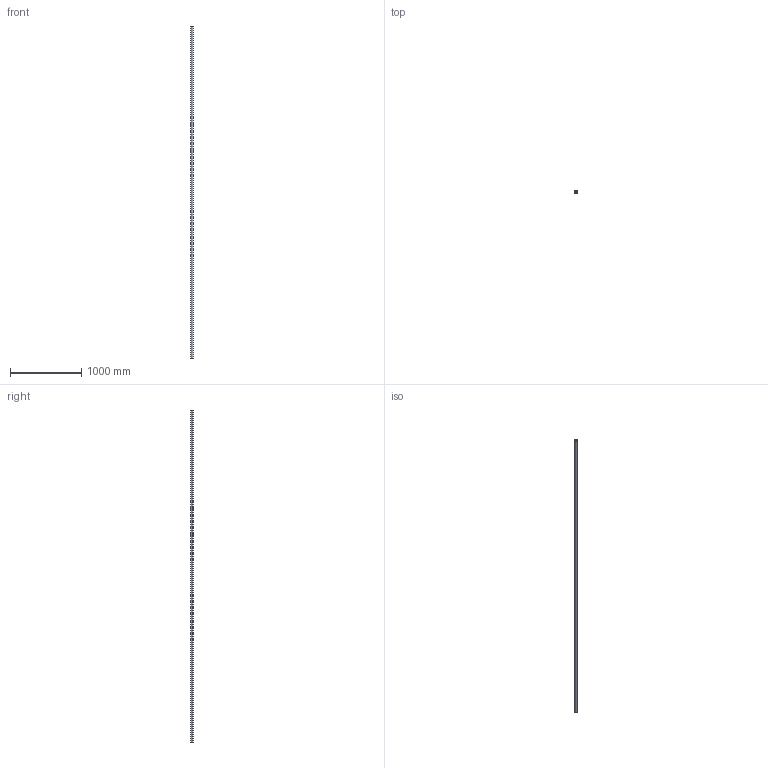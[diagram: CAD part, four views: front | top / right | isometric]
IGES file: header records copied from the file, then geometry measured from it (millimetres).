
Start section: SolidWorks IGES file using analytic representation for surfaces
Global section: file name: C:\Users\IanO\Desktop\L1771_v2\L1771.40_v2\L1771.40_v2_20230705_IGES\L1771.40-4650.igs; native system: SolidWorks 2019; preprocessor: SolidWorks 2019; author: IanO; date: 230705.162640; units: millimetre
Bounding box: 40 x 40 x 4650 mm (x, y, z)
Surface area: 994653.4 mm2 (no closed solid volume)
Topology: 0 solids, 0 shells, 6 faces, 272 edges, 272 vertices
Faces by surface type: revolution 4, bspline 2
